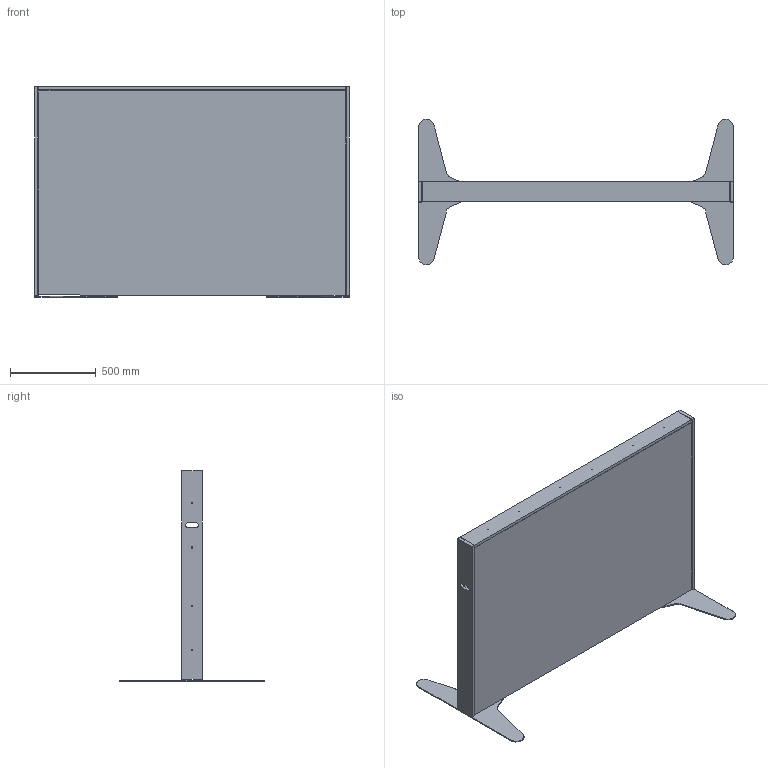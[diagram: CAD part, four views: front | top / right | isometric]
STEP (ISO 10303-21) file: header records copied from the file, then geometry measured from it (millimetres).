
FILE_DESCRIPTION(/* description */ (''),/* implementation_level */ '2;1');
FILE_NAME(/* name */ 'Studio Wall Horizontal',/* time_stamp */ '2026-06-15T17:33:25+12:00',/* author */ (''),/* organization */ (''),/* preprocessor_version */ 'ST-DEVELOPER v19.2',/* originating_system */ 'Rhino 8.31',/* authorisation */ '');
FILE_SCHEMA (('CONFIG_CONTROL_DESIGN'));
Length unit declared in the file: millimetre
Products named in the file (1): Document
Bounding box: 1836 x 849.87 x 1228.01 mm (x, y, z)
Volume: 61995038.6 mm3; surface area: 10864960.9 mm2
Topology: 7 solids, 7 shells, 96 faces, 204 edges, 136 vertices
Faces by surface type: cylinder 44, plane 40, bspline 12
Entity records: 3214 total; most frequent: CARTESIAN_POINT 1262, ORIENTED_EDGE 408, DIRECTION 264, EDGE_CURVE 204, AXIS2_PLACEMENT_3D 174, VERTEX_POINT 136, EDGE_LOOP 130, ADVANCED_FACE 96
